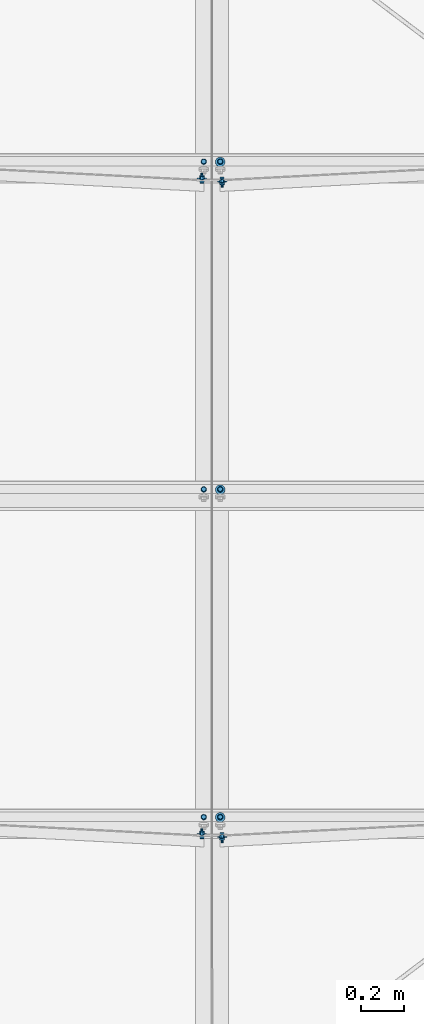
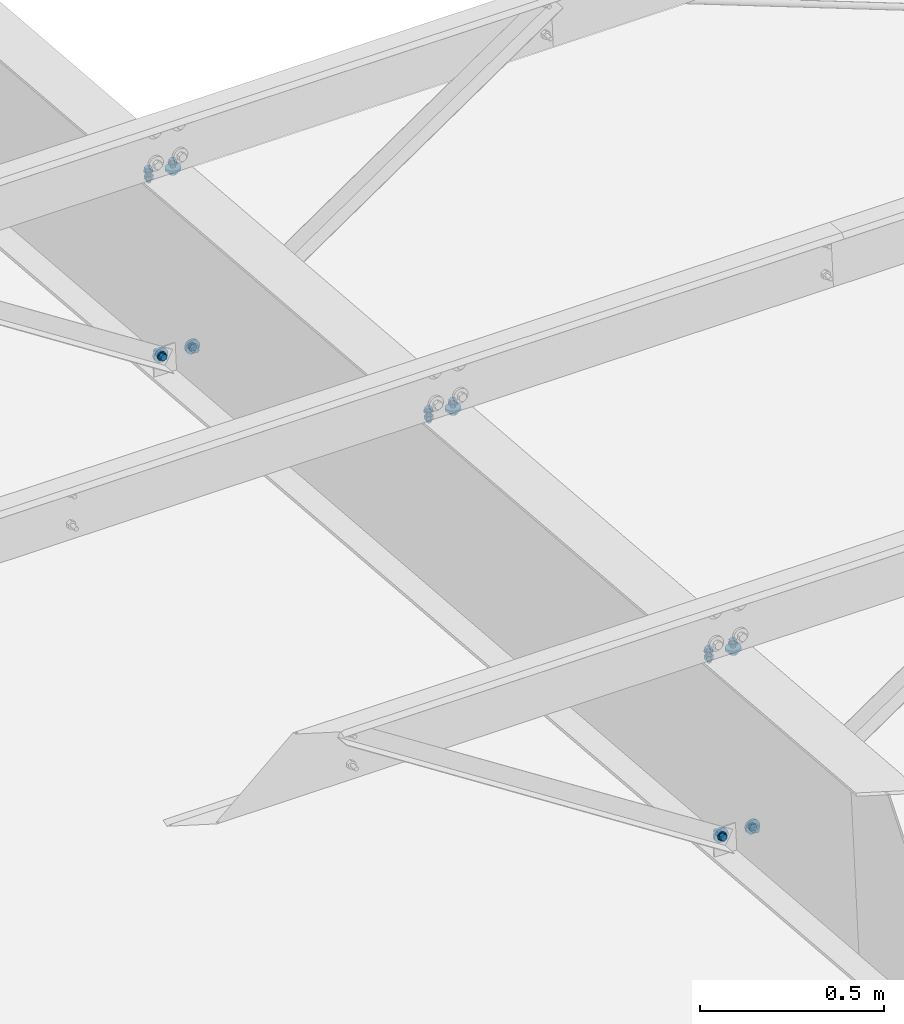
# One storey, part 146 of 185: 14 mechanical fasteners, 8 elements without a shape of their own.
"""IFC2X3 building model written with IfcOpenShell, lengths in millimetres."""

from ifc_helpers import new_model, si_unit, frame, origin_with_axes, origin_2d_with_axis, place, context, subcontext, project, spatial, polyline, circle, outline, extrude, source, transform, mapped, material, type_object, element, aggregate, save


model = new_model("IFC2X3")

# Units and contexts
model_context = context("Model", 3, precision=1e-05, world=origin_with_axes())
body_context = subcontext(model_context, "Body", "Model", "MODEL_VIEW")
ifc_project = project(units=[si_unit("LENGTHUNIT", "METRE", prefix="MILLI"), si_unit("AREAUNIT", "SQUARE_METRE"), si_unit("VOLUMEUNIT", "CUBIC_METRE"), si_unit("MASSUNIT", "GRAM", prefix="KILO"), si_unit("TIMEUNIT", "SECOND"), si_unit("PLANEANGLEUNIT", "RADIAN"), si_unit("SOLIDANGLEUNIT", "STERADIAN"), si_unit("THERMODYNAMICTEMPERATUREUNIT", "DEGREE_CELSIUS"), si_unit("LUMINOUSINTENSITYUNIT", "LUMEN")], contexts=[model_context])

# Site, building, storey
site_placement = place(None, origin_with_axes())
site = spatial("IfcSite", under=ifc_project, at=site_placement, Name="Undefined", CompositionType="ELEMENT")
building_placement = place(site_placement, origin_with_axes())
building = spatial("IfcBuilding", under=site, at=building_placement, Name="Undefined", CompositionType="ELEMENT")
storey_placement = place(building_placement, origin_with_axes())
storey = spatial("IfcBuildingStorey", under=building, at=storey_placement, Name="Undefined", CompositionType="ELEMENT", Elevation=0.0)

# Assembly, mechanical fastener
assembly_1_placement = place(storey_placement, origin_with_axes())
assembly_1 = element("IfcElementAssembly", 1, at=assembly_1_placement, inside=storey, Name="Steel Assembly", AssemblyPlace="NOTDEFINED", PredefinedType="RIGID_FRAME")
ifc_material_1 = material(Name="Undefined")
discrete_accessory_type = type_object("IfcDiscreteAccessoryType", Name="Bolt assembly")
shared_shape_1 = source(origin_with_axes(), body_context, "Body", "SweptSolid", [
    extrude(circle(Radius=7.14374971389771, at=origin_2d_with_axis()), frame((0.0, -1.59000001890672, 0.0), z_axis=(0.0, 1.0, 0.0), x_axis=(1.0, 0.0, 0.0)), (0.0, 0.0, 1.0), 1.7),
    extrude(outline(polyline([(10.9985221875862, 0.0), (5.4992610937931, 9.52499961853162), (-5.4992610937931, 9.52499961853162), (-10.9985221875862, 0.0), (-5.4992610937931, -9.52499961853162), (5.4992610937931, -9.52499961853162), (10.9985221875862, 0.0)])), frame((0.0, -15.0837496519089, 0.0), z_axis=(0.0, 1.0, 0.0), x_axis=(1.0, 0.0, 0.0)), (0.0, 0.0, 1.0), 9.5),
    extrude(circle(Radius=6.34999990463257, at=origin_2d_with_axis()), frame((0.0, -5.5587500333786, 0.0), z_axis=(0.0, 1.0, 0.0), x_axis=(1.0, 0.0, 0.0)), (0.0, 0.0, 1.0), 38.1),
    extrude(circle(Radius=13.4937496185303, at=origin_2d_with_axis()), frame((0.0, -5.5587500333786, 0.0), z_axis=(0.0, 1.0, 0.0), x_axis=(1.0, 0.0, 0.0)), (0.0, 0.0, 1.0), 4.0),
    extrude(circle(Radius=22.2250003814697, at=origin_2d_with_axis()), frame((0.0, 0.0, 0.0), z_axis=(0.0, 1.0, 0.0), x_axis=(1.0, 0.0, 0.0)), (0.0, 0.0, 1.0), 7.9),
    extrude(outline(polyline([(12.8316099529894, 0.0), (6.4158049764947, 11.1125001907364), (-6.4158049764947, 11.1125001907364), (-12.8316099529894, 0.0), (-6.4158049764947, -11.1125001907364), (6.4158049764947, -11.1125001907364), (12.8316099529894, 0.0)])), frame((0.0, 7.93750000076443, 0.0), z_axis=(0.0, 1.0, 0.0), x_axis=(1.0, 0.0, 0.0)), (0.0, 0.0, 1.0), 12.3),
])
mechanical_fastener_1_placement = place(assembly_1_placement, frame((7191.99394792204, 20798.8480806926, 6267.23365742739), z_axis=(-0.530152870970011, -0.0704144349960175, -0.844973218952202), x_axis=(-0.847902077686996, 0.0440267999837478, 0.52832159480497)))
mechanical_fastener_1 = element("IfcMechanicalFastener", 2, at=mechanical_fastener_1_placement, type_object=discrete_accessory_type, material=ifc_material_1, Name="Bolt assembly", NominalDiameter=12.6999998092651, NominalLength=38.0999984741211, context=body_context, shape_type="MappedRepresentation", body=[
    mapped(shared_shape_1, transform((0.0, 0.0, 0.0))),
])
aggregate(assembly_1, [mechanical_fastener_1])

assembly_2_placement = place(storey_placement, origin_with_axes())
assembly_2 = element("IfcElementAssembly", 3, at=assembly_2_placement, inside=storey, Name="Steel Assembly", AssemblyPlace="NOTDEFINED", PredefinedType="RIGID_FRAME")
mechanical_fastener_2_placement = place(assembly_2_placement, frame((7191.99394792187, 23836.3195518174, 6014.11103483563), z_axis=(-0.530152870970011, -0.0704144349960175, -0.844973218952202), x_axis=(-0.847902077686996, 0.0440267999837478, 0.52832159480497)))
mechanical_fastener_2 = element("IfcMechanicalFastener", 4, at=mechanical_fastener_2_placement, type_object=discrete_accessory_type, material=ifc_material_1, Name="Bolt assembly", NominalDiameter=12.6999998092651, NominalLength=38.0999984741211, context=body_context, shape_type="MappedRepresentation", body=[
    mapped(shared_shape_1, transform((0.0, 0.0, 0.0))),
])
aggregate(assembly_2, [mechanical_fastener_2])

assembly_3_placement = place(storey_placement, origin_with_axes())
assembly_3 = element("IfcElementAssembly", 5, at=assembly_3_placement, inside=storey, Name="Steel Assembly", AssemblyPlace="NOTDEFINED", PredefinedType="RIGID_FRAME")
shared_shape_2 = source(origin_with_axes(), body_context, "Body", "SweptSolid", [
    extrude(circle(Radius=7.14374971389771, at=origin_2d_with_axis()), frame((0.0, 0.0, 0.0), z_axis=(0.0, 1.0, 0.0), x_axis=(1.0, 0.0, 0.0)), (0.0, 0.0, 1.0), 1.7),
    extrude(outline(polyline([(10.9985221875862, 0.0), (5.4992610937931, 9.52499961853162), (-5.4992610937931, 9.52499961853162), (-10.9985221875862, 0.0), (-5.4992610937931, -9.52499961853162), (5.4992610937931, -9.52499961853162), (10.9985221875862, 0.0)])), frame((0.0, -13.4937496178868, 0.0), z_axis=(0.0, 1.0, 0.0), x_axis=(1.0, 0.0, 0.0)), (0.0, 0.0, 1.0), 9.5),
    extrude(circle(Radius=6.34999990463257, at=origin_2d_with_axis()), frame((0.0, -3.96874999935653, 0.0), z_axis=(0.0, 1.0, 0.0), x_axis=(1.0, 0.0, 0.0)), (0.0, 0.0, 1.0), 38.1),
    extrude(circle(Radius=13.4937496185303, at=origin_2d_with_axis()), frame((0.0, -3.96874999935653, 0.0), z_axis=(0.0, 1.0, 0.0), x_axis=(1.0, 0.0, 0.0)), (0.0, 0.0, 1.0), 4.0),
    extrude(circle(Radius=22.2250003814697, at=origin_2d_with_axis()), frame((0.0, 1.5900000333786, 0.0), z_axis=(0.0, 1.0, 0.0), x_axis=(1.0, 0.0, 0.0)), (0.0, 0.0, 1.0), 7.9),
    extrude(outline(polyline([(12.8316099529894, 0.0), (6.4158049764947, 11.1125001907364), (-6.4158049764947, 11.1125001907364), (-12.8316099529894, 0.0), (-6.4158049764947, -11.1125001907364), (6.4158049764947, -11.1125001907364), (12.8316099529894, 0.0)])), frame((0.0, 9.5275000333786, 0.0), z_axis=(0.0, 1.0, 0.0), x_axis=(1.0, 0.0, 0.0)), (0.0, 0.0, 1.0), 12.3),
])
mechanical_fastener_3_placement = place(assembly_3_placement, frame((7286.00605207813, 23836.3195518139, 6014.11103483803), z_axis=(0.530152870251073, -0.0704144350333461, -0.844973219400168), x_axis=(0.847902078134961, 0.0440268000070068, 0.528321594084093)))
mechanical_fastener_3 = element("IfcMechanicalFastener", 6, at=mechanical_fastener_3_placement, type_object=discrete_accessory_type, material=ifc_material_1, Name="Bolt assembly", NominalDiameter=12.6999998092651, NominalLength=38.0999984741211, context=body_context, shape_type="MappedRepresentation", body=[
    mapped(shared_shape_2, transform((0.0, 0.0, 0.0))),
])
aggregate(assembly_3, [mechanical_fastener_3])

assembly_4_placement = place(storey_placement, origin_with_axes())
assembly_4 = element("IfcElementAssembly", 7, at=assembly_4_placement, inside=storey, Name="Steel Assembly", AssemblyPlace="NOTDEFINED", PredefinedType="RIGID_FRAME")
mechanical_fastener_4_placement = place(assembly_4_placement, frame((7286.00605207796, 20798.848080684, 6267.23365743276), z_axis=(0.530152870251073, -0.0704144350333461, -0.844973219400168), x_axis=(0.847902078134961, 0.0440268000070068, 0.528321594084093)))
mechanical_fastener_4 = element("IfcMechanicalFastener", 8, at=mechanical_fastener_4_placement, type_object=discrete_accessory_type, material=ifc_material_1, Name="Bolt assembly", NominalDiameter=12.6999998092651, NominalLength=38.0999984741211, context=body_context, shape_type="MappedRepresentation", body=[
    mapped(shared_shape_2, transform((0.0, 0.0, 0.0))),
])
aggregate(assembly_4, [mechanical_fastener_4])

# Assembly, mechanical fasteners
assembly_5_placement = place(storey_placement, origin_with_axes())
assembly_5 = element("IfcElementAssembly", 9, at=assembly_5_placement, inside=storey, Name="Steel Assembly", AssemblyPlace="NOTDEFINED", PredefinedType="RIGID_FRAME")
ifc_material_2 = material(Name="7990")
shared_shape_3 = source(origin_with_axes(), body_context, "Body", "SweptSolid", [
    extrude(circle(Radius=7.14374971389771, at=origin_2d_with_axis()), frame((0.0, -3.41600000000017, 0.0), z_axis=(0.0, 1.0, 0.0), x_axis=(1.0, 0.0, 0.0)), (0.0, 0.0, 1.0), 3.5),
    extrude(circle(Radius=11.4299998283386, at=origin_2d_with_axis()), frame((0.0, 0.0, 0.0), z_axis=(0.0, 1.0, 0.0), x_axis=(1.0, 0.0, 0.0)), (0.0, 0.0, 1.0), 4.2),
    extrude(outline(polyline([(12.171698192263, 0.0), (6.08584909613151, 10.5409998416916), (-6.08584909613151, 10.5409998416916), (-12.171698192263, 0.0), (-6.08584909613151, -10.5409998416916), (6.08584909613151, -10.5409998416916), (12.171698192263, 0.0)])), frame((0.0, 4.1909999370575, 0.0), z_axis=(0.0, 1.0, 0.0), x_axis=(1.0, 0.0, 0.0)), (0.0, 0.0, 1.0), 8.4),
])
mechanical_fastener_5_placement = place(assembly_5_placement, frame((7285.15815, 20798.8040538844, 6266.70533583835), z_axis=(-0.921635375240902, -0.0322263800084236, -0.386716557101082), x_axis=(0.388056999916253, -0.0765376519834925, -0.918451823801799)))
mechanical_fastener_5 = element("IfcMechanicalFastener", 10, at=mechanical_fastener_5_placement, type_object=discrete_accessory_type, material=ifc_material_2, Name="Bolt assembly", NominalDiameter=12.6999998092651, NominalLength=38.0999984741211, context=body_context, shape_type="MappedRepresentation", body=[
    mapped(shared_shape_3, transform((0.0, 0.0, 0.0))),
])
mechanical_fastener_6_placement = place(assembly_5_placement, frame((7285.15815, 23836.2755250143, 6013.58271324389), z_axis=(-0.921635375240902, -0.0322263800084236, -0.386716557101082), x_axis=(0.388056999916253, -0.0765376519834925, -0.918451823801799)))
mechanical_fastener_6 = element("IfcMechanicalFastener", 11, at=mechanical_fastener_6_placement, type_object=discrete_accessory_type, material=ifc_material_2, Name="Bolt assembly", NominalDiameter=12.6999998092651, NominalLength=38.0999984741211, context=body_context, shape_type="MappedRepresentation", body=[
    mapped(shared_shape_3, transform((0.0, 0.0, 0.0))),
])
shared_shape_4 = source(origin_with_axes(), body_context, "Body", "SweptSolid", [
    extrude(circle(Radius=7.14374971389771, at=origin_2d_with_axis()), frame((0.0, 0.0, 0.0), z_axis=(0.0, 1.0, 0.0), x_axis=(1.0, 0.0, 0.0)), (0.0, 0.0, 1.0), 3.5),
    extrude(circle(Radius=11.4299998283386, at=origin_2d_with_axis()), frame((0.0, 3.41600000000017, 0.0), z_axis=(0.0, 1.0, 0.0), x_axis=(1.0, 0.0, 0.0)), (0.0, 0.0, 1.0), 4.2),
    extrude(outline(polyline([(12.171698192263, 0.0), (6.08584909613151, 10.5409998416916), (-6.08584909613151, 10.5409998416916), (-12.171698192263, 0.0), (-6.08584909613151, -10.5409998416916), (6.08584909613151, -10.5409998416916), (12.171698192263, 0.0)])), frame((0.0, 7.60699993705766, 0.0), z_axis=(0.0, 1.0, 0.0), x_axis=(1.0, 0.0, 0.0)), (0.0, 0.0, 1.0), 8.4),
])
mechanical_fastener_7_placement = place(assembly_5_placement, frame((7192.84185, 20798.8040538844, 6266.70533583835), z_axis=(0.921635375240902, -0.0322263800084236, -0.386716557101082), x_axis=(-0.388056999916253, -0.0765376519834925, -0.918451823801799)))
mechanical_fastener_7 = element("IfcMechanicalFastener", 12, at=mechanical_fastener_7_placement, type_object=discrete_accessory_type, material=ifc_material_2, Name="Bolt assembly", NominalDiameter=12.6999998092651, NominalLength=38.0999984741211, context=body_context, shape_type="MappedRepresentation", body=[
    mapped(shared_shape_4, transform((0.0, 0.0, 0.0))),
])
mechanical_fastener_8_placement = place(assembly_5_placement, frame((7192.84185, 23836.2755250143, 6013.58271324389), z_axis=(0.921635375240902, -0.0322263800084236, -0.386716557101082), x_axis=(-0.388056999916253, -0.0765376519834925, -0.918451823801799)))
mechanical_fastener_8 = element("IfcMechanicalFastener", 13, at=mechanical_fastener_8_placement, type_object=discrete_accessory_type, material=ifc_material_2, Name="Bolt assembly", NominalDiameter=12.6999998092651, NominalLength=38.0999984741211, context=body_context, shape_type="MappedRepresentation", body=[
    mapped(shared_shape_4, transform((0.0, 0.0, 0.0))),
])
aggregate(assembly_5, [mechanical_fastener_7, mechanical_fastener_5, mechanical_fastener_8, mechanical_fastener_6])

# Assembly, mechanical fastener
assembly_6_placement = place(storey_placement, origin_with_axes())
assembly_6 = element("IfcElementAssembly", 14, at=assembly_6_placement, inside=storey, Name="Steel Assembly", AssemblyPlace="NOTDEFINED", PredefinedType="RIGID_FRAME")
shared_shape_5 = source(origin_with_axes(), body_context, "Body", "SweptSolid", [
    extrude(circle(Radius=7.14374971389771, at=origin_2d_with_axis()), frame((0.0, -0.0238014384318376, 0.0), z_axis=(0.0, 1.0, 0.0), x_axis=(1.0, 0.0, 0.0)), (0.0, 0.0, 1.0), 8.0),
    extrude(circle(Radius=7.14374971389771, at=origin_2d_with_axis()), frame((0.0, -3.08000006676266, 0.0), z_axis=(0.0, 1.0, 0.0), x_axis=(1.0, 0.0, 0.0)), (0.0, 0.0, 1.0), 3.2),
    extrude(circle(Radius=7.14374971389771, at=origin_2d_with_axis()), frame((0.0, -3.08000006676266, 0.0), z_axis=(0.0, 1.0, 0.0), x_axis=(1.0, 0.0, 0.0)), (0.0, 0.0, 1.0), 3.2),
    extrude(outline(polyline([(10.9985221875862, 0.0), (5.4992610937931, 9.52499961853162), (-5.4992610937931, 9.52499961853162), (-10.9985221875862, 0.0), (-5.4992610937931, -9.52499961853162), (5.4992610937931, -9.52499961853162), (10.9985221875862, 0.0)])), frame((0.0, -16.6737496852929, 0.0), z_axis=(0.0, 1.0, 0.0), x_axis=(1.0, 0.0, 0.0)), (0.0, 0.0, 1.0), 9.5),
    extrude(circle(Radius=6.34999990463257, at=origin_2d_with_axis()), frame((0.0, -7.14875006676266, 0.0), z_axis=(0.0, 1.0, 0.0), x_axis=(1.0, 0.0, 0.0)), (0.0, 0.0, 1.0), 38.1),
    extrude(circle(Radius=13.4937496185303, at=origin_2d_with_axis()), frame((0.0, -7.14875006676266, 0.0), z_axis=(0.0, 1.0, 0.0), x_axis=(1.0, 0.0, 0.0)), (0.0, 0.0, 1.0), 4.0),
    extrude(circle(Radius=22.2250003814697, at=origin_2d_with_axis()), frame((0.0, 7.95019856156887, 0.0), z_axis=(0.0, 1.0, 0.0), x_axis=(1.0, 0.0, 0.0)), (0.0, 0.0, 1.0), 7.9),
    extrude(outline(polyline([(12.8316099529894, 0.0), (6.4158049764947, 11.1125001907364), (-6.4158049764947, 11.1125001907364), (-12.8316099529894, 0.0), (-6.4158049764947, -11.1125001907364), (6.4158049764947, -11.1125001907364), (12.8316099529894, 0.0)])), frame((0.0, 15.8876985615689, 0.0), z_axis=(0.0, 1.0, 0.0), x_axis=(1.0, 0.0, 0.0)), (0.0, 0.0, 1.0), 12.3),
])
mechanical_fastener_9_placement = place(assembly_6_placement, frame((7277.1, 20883.0474812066, 6818.84171023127), z_axis=(-1.0, 0.0, 0.0), x_axis=(0.0, 0.996545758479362, -0.0830454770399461)))
mechanical_fastener_9 = element("IfcMechanicalFastener", 15, at=mechanical_fastener_9_placement, type_object=discrete_accessory_type, material=ifc_material_1, Name="Bolt assembly", NominalDiameter=12.6999998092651, NominalLength=38.0999984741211, context=body_context, shape_type="MappedRepresentation", body=[
    mapped(shared_shape_5, transform((0.0, 0.0, 0.0))),
])

assembly_7_placement = place(storey_placement, origin_with_axes())
assembly_7 = element("IfcElementAssembly", 16, at=assembly_7_placement, inside=storey, Name="Steel Assembly", AssemblyPlace="NOTDEFINED", PredefinedType="RIGID_FRAME")
mechanical_fastener_10_placement = place(assembly_7_placement, frame((7277.1, 22401.7832167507, 6692.28039868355), z_axis=(-1.0, 0.0, 0.0), x_axis=(0.0, 0.996545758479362, -0.0830454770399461)))
mechanical_fastener_10 = element("IfcMechanicalFastener", 17, at=mechanical_fastener_10_placement, type_object=discrete_accessory_type, material=ifc_material_1, Name="Bolt assembly", NominalDiameter=12.6999998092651, NominalLength=38.0999984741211, context=body_context, shape_type="MappedRepresentation", body=[
    mapped(shared_shape_5, transform((0.0, 0.0, 0.0))),
])

assembly_8_placement = place(storey_placement, origin_with_axes())
assembly_8 = element("IfcElementAssembly", 18, at=assembly_8_placement, inside=storey, Name="Steel Assembly", AssemblyPlace="NOTDEFINED", PredefinedType="RIGID_FRAME")
mechanical_fastener_11_placement = place(assembly_8_placement, frame((7277.1, 23920.5189522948, 6565.71908713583), z_axis=(-1.0, 0.0, 0.0), x_axis=(0.0, 0.996545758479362, -0.0830454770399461)))
mechanical_fastener_11 = element("IfcMechanicalFastener", 19, at=mechanical_fastener_11_placement, type_object=discrete_accessory_type, material=ifc_material_1, Name="Bolt assembly", NominalDiameter=12.6999998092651, NominalLength=38.0999984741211, context=body_context, shape_type="MappedRepresentation", body=[
    mapped(shared_shape_5, transform((0.0, 0.0, 0.0))),
])

# Mechanical fastener
shared_shape_6 = source(origin_with_axes(), body_context, "Body", "SweptSolid", [
    extrude(circle(Radius=7.14374971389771, at=origin_2d_with_axis()), frame((0.0, -0.0238014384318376, 0.0), z_axis=(0.0, 1.0, 0.0), x_axis=(1.0, 0.0, 0.0)), (0.0, 0.0, 1.0), 8.0),
    extrude(circle(Radius=7.14374971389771, at=origin_2d_with_axis()), frame((0.0, -3.08000006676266, 0.0), z_axis=(0.0, 1.0, 0.0), x_axis=(1.0, 0.0, 0.0)), (0.0, 0.0, 1.0), 3.2),
    extrude(circle(Radius=7.14374971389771, at=origin_2d_with_axis()), frame((0.0, -3.08000006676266, 0.0), z_axis=(0.0, 1.0, 0.0), x_axis=(1.0, 0.0, 0.0)), (0.0, 0.0, 1.0), 3.2),
    extrude(outline(polyline([(10.9985221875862, 0.0), (5.4992610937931, 9.52499961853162), (-5.4992610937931, 9.52499961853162), (-10.9985221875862, 0.0), (-5.4992610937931, -9.52499961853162), (5.4992610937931, -9.52499961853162), (10.9985221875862, 0.0)])), frame((0.0, -16.6737496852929, 0.0), z_axis=(0.0, 1.0, 0.0), x_axis=(1.0, 0.0, 0.0)), (0.0, 0.0, 1.0), 9.5),
    extrude(circle(Radius=6.34999990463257, at=origin_2d_with_axis()), frame((0.0, -7.14875006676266, 0.0), z_axis=(0.0, 1.0, 0.0), x_axis=(1.0, 0.0, 0.0)), (0.0, 0.0, 1.0), 38.1),
    extrude(circle(Radius=13.4937496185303, at=origin_2d_with_axis()), frame((0.0, -7.14875006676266, 0.0), z_axis=(0.0, 1.0, 0.0), x_axis=(1.0, 0.0, 0.0)), (0.0, 0.0, 1.0), 4.0),
    extrude(outline(polyline([(12.8316099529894, 0.0), (6.4158049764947, 11.1125001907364), (-6.4158049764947, 11.1125001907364), (-12.8316099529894, 0.0), (-6.4158049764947, -11.1125001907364), (6.4158049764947, -11.1125001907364), (12.8316099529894, 0.0)])), frame((0.0, 7.95019856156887, 0.0), z_axis=(0.0, 1.0, 0.0), x_axis=(1.0, 0.0, 0.0)), (0.0, 0.0, 1.0), 12.3),
])
mechanical_fastener_12_placement = place(assembly_6_placement, frame((7200.9, 20883.0474812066, 6818.84171023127), z_axis=(-1.0, 0.0, 0.0), x_axis=(0.0, 0.996545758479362, -0.0830454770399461)))
mechanical_fastener_12 = element("IfcMechanicalFastener", 20, at=mechanical_fastener_12_placement, type_object=discrete_accessory_type, material=ifc_material_1, Name="Bolt assembly", NominalDiameter=12.6999998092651, NominalLength=38.0999984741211, context=body_context, shape_type="MappedRepresentation", body=[
    mapped(shared_shape_6, transform((0.0, 0.0, 0.0))),
])

aggregate(assembly_6, [mechanical_fastener_9, mechanical_fastener_12])

mechanical_fastener_13_placement = place(assembly_7_placement, frame((7200.9, 22401.7832167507, 6692.28039868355), z_axis=(-1.0, 0.0, 0.0), x_axis=(0.0, 0.996545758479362, -0.0830454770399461)))
mechanical_fastener_13 = element("IfcMechanicalFastener", 21, at=mechanical_fastener_13_placement, type_object=discrete_accessory_type, material=ifc_material_1, Name="Bolt assembly", NominalDiameter=12.6999998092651, NominalLength=38.0999984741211, context=body_context, shape_type="MappedRepresentation", body=[
    mapped(shared_shape_6, transform((0.0, 0.0, 0.0))),
])

aggregate(assembly_7, [mechanical_fastener_10, mechanical_fastener_13])

mechanical_fastener_14_placement = place(assembly_8_placement, frame((7200.9, 23920.5189522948, 6565.71908713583), z_axis=(-1.0, 0.0, 0.0), x_axis=(0.0, 0.996545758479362, -0.0830454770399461)))
mechanical_fastener_14 = element("IfcMechanicalFastener", 22, at=mechanical_fastener_14_placement, type_object=discrete_accessory_type, material=ifc_material_1, Name="Bolt assembly", NominalDiameter=12.6999998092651, NominalLength=38.0999984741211, context=body_context, shape_type="MappedRepresentation", body=[
    mapped(shared_shape_6, transform((0.0, 0.0, 0.0))),
])

aggregate(assembly_8, [mechanical_fastener_11, mechanical_fastener_14])

save(model, "model.ifc")
